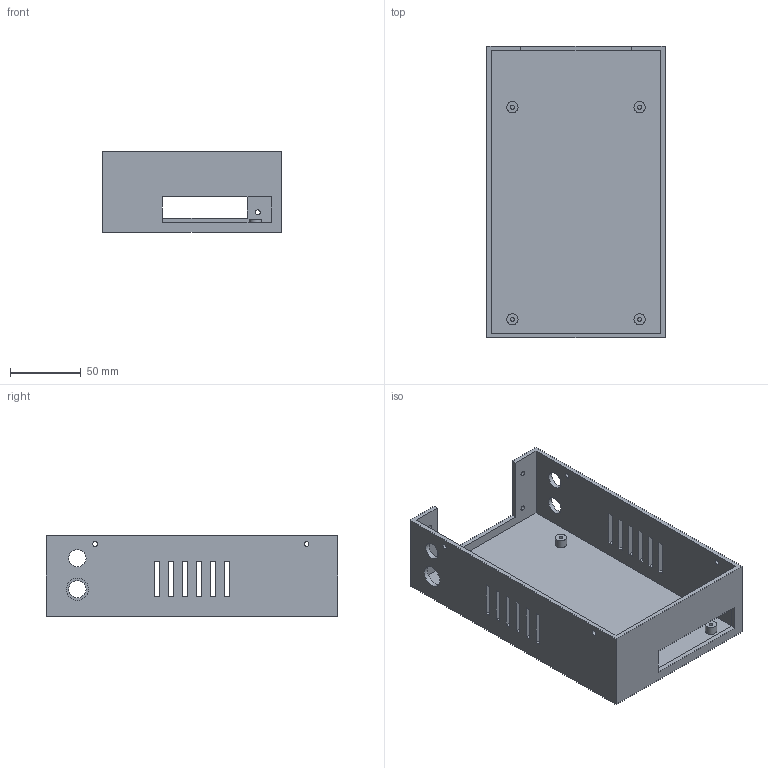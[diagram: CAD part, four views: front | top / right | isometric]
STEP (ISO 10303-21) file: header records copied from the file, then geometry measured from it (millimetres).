
FILE_DESCRIPTION(('Open CASCADE Model'),'2;1');
FILE_NAME('Open CASCADE Shape Model','2026-07-27T14:20:48',('Author'),( 'Open CASCADE'),'Open CASCADE STEP processor 7.9','Open CASCADE 7.9' ,'Unknown');
FILE_SCHEMA(('AUTOMOTIVE_DESIGN { 1 0 10303 214 1 1 1 1 }'));
Length unit declared in the file: millimetre
Products named in the file (1): Open CASCADE STEP translator 7.9 1
Bounding box: 126 x 206 x 56.8 mm (x, y, z)
Volume: 174267.9 mm3; surface area: 115107.3 mm2
Topology: 1 solids, 1 shells, 94 faces, 252 edges, 168 vertices
Faces by surface type: plane 74, cylinder 20
Full cylindrical faces by diameter (mm): 2.8 x4, 3.4 x8, 8 x4, 12.2 x3, 15.6 x1
Entity records: 6116 total; most frequent: CARTESIAN_POINT 1313, DIRECTION 752, ORIENTED_EDGE 504, PCURVE 504, DEFINITIONAL_REPRESENTATION 504, LINE 454, VECTOR 454, EDGE_CURVE 252
